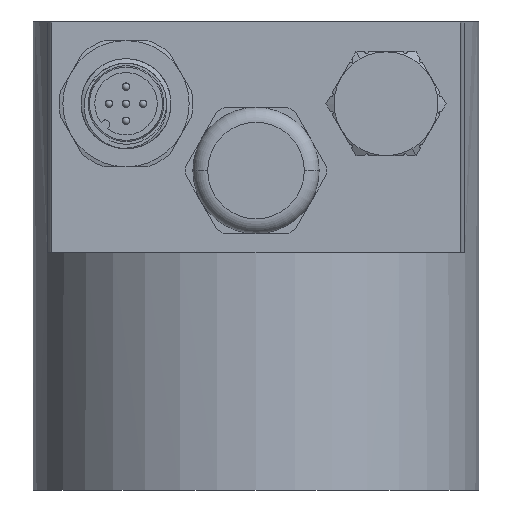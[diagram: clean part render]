
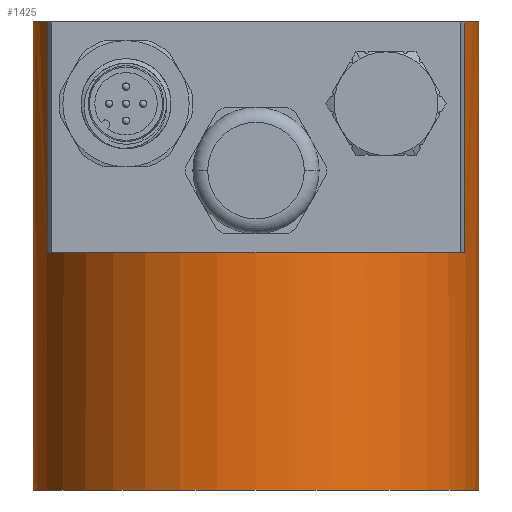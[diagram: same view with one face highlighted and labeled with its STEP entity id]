
A CAD part, front view. The second image highlights one B-rep face of the part: STEP entity #1425.
In plain terms, the highlighted cylindrical face has radius 30 mm (diameter 60 mm), a partial arc.
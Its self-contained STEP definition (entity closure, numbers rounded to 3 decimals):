
#113 = VERTEX_POINT ( 'NONE', #5092 ) ;
#136 = ORIENTED_EDGE ( 'NONE', *, *, #5460, .F. ) ;
#618 = CARTESIAN_POINT ( 'NONE',  ( 0., 0., -24.7 ) ) ;
#1425 = ADVANCED_FACE ( 'NONE', ( #16541 ), #9834, .T. ) ;
#1642 = CARTESIAN_POINT ( 'NONE',  ( -30., 0., 38.3 ) ) ;
#1765 = EDGE_CURVE ( 'NONE', #18451, #14852, #10618, .T. ) ;
#3253 = LINE ( 'NONE', #15167, #16469 ) ;
#3549 = VERTEX_POINT ( 'NONE', #1642 ) ;
#3582 = ORIENTED_EDGE ( 'NONE', *, *, #8832, .F. ) ;
#4589 = EDGE_CURVE ( 'NONE', #15963, #5459, #9050, .T. ) ;
#5016 = CARTESIAN_POINT ( 'NONE',  ( -28.125, -10.44, 38.3 ) ) ;
#5092 = CARTESIAN_POINT ( 'NONE',  ( -28.125, -10.44, 7.3 ) ) ;
#5459 = VERTEX_POINT ( 'NONE', #20992 ) ;
#5460 = EDGE_CURVE ( 'NONE', #17175, #15963, #14712, .T. ) ;
#6017 = AXIS2_PLACEMENT_3D ( 'NONE', #14325, #14101, #14685 ) ;
#6490 = CARTESIAN_POINT ( 'NONE',  ( 0., 0., 38.3 ) ) ;
#6794 = AXIS2_PLACEMENT_3D ( 'NONE', #11844, #21790, #9794 ) ;
#6863 = CARTESIAN_POINT ( 'NONE',  ( 0., 0., 7.3 ) ) ;
#7055 = DIRECTION ( 'NONE',  ( 0., 0., -1. ) ) ;
#7315 = ORIENTED_EDGE ( 'NONE', *, *, #18339, .T. ) ;
#8200 = EDGE_CURVE ( 'NONE', #3549, #13289, #11606, .T. ) ;
#8604 = DIRECTION ( 'NONE',  ( 1., 0., 0. ) ) ;
#8832 = EDGE_CURVE ( 'NONE', #18451, #17175, #15624, .T. ) ;
#8921 = CARTESIAN_POINT ( 'NONE',  ( 30., 0., 38.3 ) ) ;
#9050 = CIRCLE ( 'NONE', #13688, 30. ) ;
#9730 = ORIENTED_EDGE ( 'NONE', *, *, #8200, .F. ) ;
#9794 = DIRECTION ( 'NONE',  ( -1., 0., 0. ) ) ;
#9805 = ORIENTED_EDGE ( 'NONE', *, *, #1765, .T. ) ;
#9834 = CYLINDRICAL_SURFACE ( 'NONE', #6794, 30. ) ;
#10163 = VECTOR ( 'NONE', #19318, 1000. ) ;
#10549 = CARTESIAN_POINT ( 'NONE',  ( 30., 0., 38.3 ) ) ;
#10618 = LINE ( 'NONE', #11585, #18724 ) ;
#11493 = DIRECTION ( 'NONE',  ( 0., 0., 1. ) ) ;
#11585 = CARTESIAN_POINT ( 'NONE',  ( 28.125, -10.44, 38.3 ) ) ;
#11606 = CIRCLE ( 'NONE', #6017, 30. ) ;
#11724 = DIRECTION ( 'NONE',  ( 1., 0., 0. ) ) ;
#11844 = CARTESIAN_POINT ( 'NONE',  ( 0., 0., 38.3 ) ) ;
#12106 = ORIENTED_EDGE ( 'NONE', *, *, #4589, .F. ) ;
#12109 = ORIENTED_EDGE ( 'NONE', *, *, #19281, .T. ) ;
#12892 = LINE ( 'NONE', #16731, #16920 ) ;
#13289 = VERTEX_POINT ( 'NONE', #5016 ) ;
#13524 = AXIS2_PLACEMENT_3D ( 'NONE', #6490, #14915, #11724 ) ;
#13688 = AXIS2_PLACEMENT_3D ( 'NONE', #618, #13999, #19487 ) ;
#13999 = DIRECTION ( 'NONE',  ( 0., 0., -1. ) ) ;
#14101 = DIRECTION ( 'NONE',  ( 0., 0., 1. ) ) ;
#14325 = CARTESIAN_POINT ( 'NONE',  ( 0., 0., 38.3 ) ) ;
#14343 = AXIS2_PLACEMENT_3D ( 'NONE', #6863, #18935, #8604 ) ;
#14685 = DIRECTION ( 'NONE',  ( 1., 0., 0. ) ) ;
#14712 = LINE ( 'NONE', #10549, #10163 ) ;
#14852 = VERTEX_POINT ( 'NONE', #19413 ) ;
#14907 = CARTESIAN_POINT ( 'NONE',  ( 30., 0., -24.7 ) ) ;
#14915 = DIRECTION ( 'NONE',  ( 0., 0., 1. ) ) ;
#15167 = CARTESIAN_POINT ( 'NONE',  ( -30., 0., 38.3 ) ) ;
#15539 = CIRCLE ( 'NONE', #14343, 30. ) ;
#15624 = CIRCLE ( 'NONE', #13524, 30. ) ;
#15963 = VERTEX_POINT ( 'NONE', #14907 ) ;
#16469 = VECTOR ( 'NONE', #16926, 1000. ) ;
#16541 = FACE_OUTER_BOUND ( 'NONE', #21794, .T. ) ;
#16731 = CARTESIAN_POINT ( 'NONE',  ( -28.125, -10.44, 38.3 ) ) ;
#16920 = VECTOR ( 'NONE', #11493, 1000. ) ;
#16926 = DIRECTION ( 'NONE',  ( 0., 0., -1. ) ) ;
#17175 = VERTEX_POINT ( 'NONE', #8921 ) ;
#17289 = CARTESIAN_POINT ( 'NONE',  ( 28.125, -10.44, 38.3 ) ) ;
#18339 = EDGE_CURVE ( 'NONE', #3549, #5459, #3253, .T. ) ;
#18451 = VERTEX_POINT ( 'NONE', #17289 ) ;
#18724 = VECTOR ( 'NONE', #7055, 1000. ) ;
#18729 = ORIENTED_EDGE ( 'NONE', *, *, #19426, .T. ) ;
#18935 = DIRECTION ( 'NONE',  ( 0., 0., -1. ) ) ;
#19281 = EDGE_CURVE ( 'NONE', #113, #13289, #12892, .T. ) ;
#19318 = DIRECTION ( 'NONE',  ( 0., 0., -1. ) ) ;
#19413 = CARTESIAN_POINT ( 'NONE',  ( 28.125, -10.44, 7.3 ) ) ;
#19426 = EDGE_CURVE ( 'NONE', #14852, #113, #15539, .T. ) ;
#19487 = DIRECTION ( 'NONE',  ( -1., 0., 0. ) ) ;
#20992 = CARTESIAN_POINT ( 'NONE',  ( -30., 0., -24.7 ) ) ;
#21790 = DIRECTION ( 'NONE',  ( 0., 0., -1. ) ) ;
#21794 = EDGE_LOOP ( 'NONE', ( #136, #3582, #9805, #18729, #12109, #9730, #7315, #12106 ) ) ;
